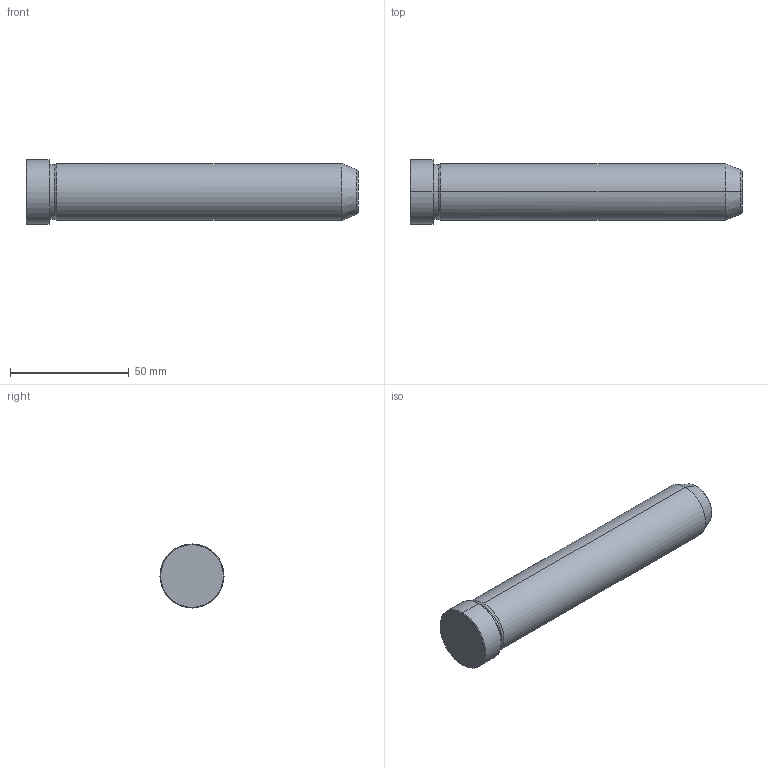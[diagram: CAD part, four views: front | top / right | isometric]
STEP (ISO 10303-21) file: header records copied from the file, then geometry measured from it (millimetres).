
FILE_DESCRIPTION(('CATIA V5 STEP Exchange'),'2;1');
FILE_NAME('C:\Users\Utente\Desktop\IO LAVORO\3D X SITO CF\X SITO\PLASTICA\549\549-24X140.stp','2021-12-17T14:04:33+00:00',('none'),('none'),'CATIA Version 5 Release 20 GA (IN-10)','CATIA V5 STEP AP203','none');
FILE_SCHEMA(('CONFIG_CONTROL_DESIGN'));
Length unit declared in the file: millimetre
Products named in the file (1): 549-24X140
Bounding box: 140 x 27 x 27 mm (x, y, z)
Volume: 63746.3 mm3; surface area: 11580.9 mm2
Topology: 1 solids, 1 shells, 19 faces, 56 edges, 40 vertices
Faces by surface type: cone 8, cylinder 6, plane 3, torus 2
Entity records: 736 total; most frequent: CARTESIAN_POINT 192, ORIENTED_EDGE 112, DIRECTION 86, EDGE_CURVE 56, AXIS2_PLACEMENT_3D 54, VERTEX_POINT 40, CIRCLE 34, EDGE_LOOP 20
